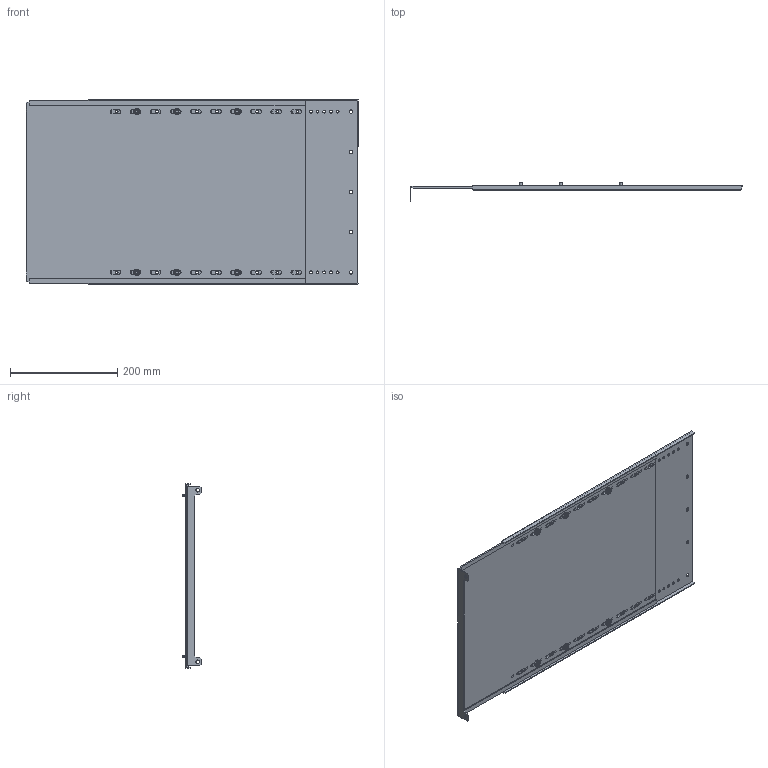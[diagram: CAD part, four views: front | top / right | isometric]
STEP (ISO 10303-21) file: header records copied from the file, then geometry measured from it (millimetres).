
FILE_DESCRIPTION (( 'STEP AP214' ), '1' );
FILE_NAME ('FO-00-SWVB-035-060 Ïåðåãîðîäêà ñåêöèîíèðîâàíèÿ âåðòèêàëüíàÿ äëÿ âåðòèêàëüíîãî øèííîãî îòñåêà 350õ600 ìì â øêàô ãëóáèíîé 1000 ìì.STEP', '2025-09-05T08:27:50', ( '' ), ( '' ), 'SwSTEP 2.0', 'SolidWorks 2023', '' );
FILE_SCHEMA (( 'AUTOMOTIVE_DESIGN' ));
Length unit declared in the file: millimetre
Products named in the file (4): Болты М5 х350; Перегородка секционирования ап 350х600; Перегородка секционирования 350х600; FO-00-SWVB-035-060 Перегородка секционирования вертикальная для вертикального шинного отсека 350х600 мм в шкаф глубиной 1000 мм
Assembly tree (5 placements, depth 2):
  FO-00-SWVB-035-060 Перегородка секционирования вертикальная для вертикального шинного отсека 350х600 мм в шкаф глубиной 1000 мм
    Перегородка секционирования 350х600
    Перегородка секционирования ап 350х600
    Болты М5 х350  x3
Bounding box: 619.75 x 35.7 x 344.5 mm (x, y, z)
Volume: 554737.7 mm3; surface area: 731273.1 mm2
Topology: 8 solids, 8 shells, 464 faces, 1272 edges, 836 vertices
Faces by surface type: cylinder 312, plane 116, torus 24, cone 12
Entity records: 12138 total; most frequent: DIRECTION 2200, CARTESIAN_POINT 2012, ORIENTED_EDGE 1992, EDGE_CURVE 996, AXIS2_PLACEMENT_3D 848, VERTEX_POINT 660, EDGE_LOOP 550, VECTOR 504
